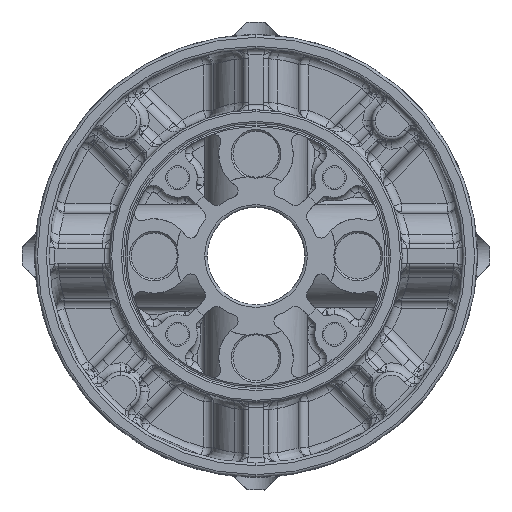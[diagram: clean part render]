
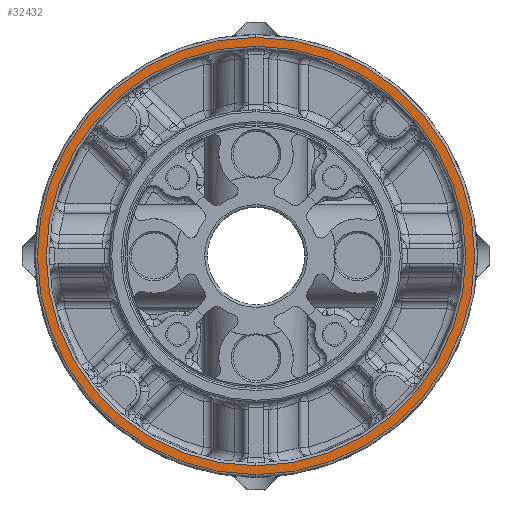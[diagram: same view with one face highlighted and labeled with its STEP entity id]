
A CAD part, left-side view. The second image highlights one B-rep face of the part: STEP entity #32432.
In plain terms, the highlighted planar face has unit normal (-1, 0, 0).
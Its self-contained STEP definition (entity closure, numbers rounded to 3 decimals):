
#958 = DIRECTION ( 'NONE',  ( -1., 0., 0. ) ) ;
#1538 = EDGE_LOOP ( 'NONE', ( #18575, #45110 ) ) ;
#1808 = CARTESIAN_POINT ( 'NONE',  ( -80., 0., 123.5 ) ) ;
#3169 = DIRECTION ( 'NONE',  ( 1., 0., 0. ) ) ;
#3421 = EDGE_CURVE ( 'NONE', #42270, #24211, #42255, .T. ) ;
#7253 = VERTEX_POINT ( 'NONE', #41492 ) ;
#9593 = CARTESIAN_POINT ( 'NONE',  ( -80., 0., 0. ) ) ;
#10741 = AXIS2_PLACEMENT_3D ( 'NONE', #38489, #12252, #24374 ) ;
#11239 = CARTESIAN_POINT ( 'NONE',  ( -80., 0., 0. ) ) ;
#11595 = FACE_OUTER_BOUND ( 'NONE', #24073, .T. ) ;
#12213 = EDGE_CURVE ( 'NONE', #49433, #7253, #15691, .T. ) ;
#12252 = DIRECTION ( 'NONE',  ( -1., 0., 0. ) ) ;
#14488 = DIRECTION ( 'NONE',  ( 0., 0., 1. ) ) ;
#14785 = AXIS2_PLACEMENT_3D ( 'NONE', #11239, #3169, #32598 ) ;
#15691 = CIRCLE ( 'NONE', #14785, 118.5 ) ;
#18064 = CIRCLE ( 'NONE', #10741, 123.5 ) ;
#18575 = ORIENTED_EDGE ( 'NONE', *, *, #12213, .T. ) ;
#20801 = CARTESIAN_POINT ( 'NONE',  ( -80., 58.336, -58.336 ) ) ;
#22739 = CIRCLE ( 'NONE', #32884, 118.5 ) ;
#23972 = AXIS2_PLACEMENT_3D ( 'NONE', #20801, #46763, #29737 ) ;
#24073 = EDGE_LOOP ( 'NONE', ( #45776, #34939 ) ) ;
#24211 = VERTEX_POINT ( 'NONE', #1808 ) ;
#24374 = DIRECTION ( 'NONE',  ( 0., 0., 1. ) ) ;
#28307 = DIRECTION ( 'NONE',  ( 0., 0., 1. ) ) ;
#29366 = EDGE_CURVE ( 'NONE', #7253, #49433, #22739, .T. ) ;
#29737 = DIRECTION ( 'NONE',  ( 0., 0., 1. ) ) ;
#32432 = ADVANCED_FACE ( 'NONE', ( #51346, #11595 ), #56239, .T. ) ;
#32598 = DIRECTION ( 'NONE',  ( 0., 0., 1. ) ) ;
#32884 = AXIS2_PLACEMENT_3D ( 'NONE', #50481, #41553, #28307 ) ;
#34939 = ORIENTED_EDGE ( 'NONE', *, *, #3421, .T. ) ;
#38489 = CARTESIAN_POINT ( 'NONE',  ( -80., 0., 0. ) ) ;
#41492 = CARTESIAN_POINT ( 'NONE',  ( -80., 0., -118.5 ) ) ;
#41553 = DIRECTION ( 'NONE',  ( 1., 0., 0. ) ) ;
#42255 = CIRCLE ( 'NONE', #49628, 123.5 ) ;
#42270 = VERTEX_POINT ( 'NONE', #52279 ) ;
#45110 = ORIENTED_EDGE ( 'NONE', *, *, #29366, .T. ) ;
#45776 = ORIENTED_EDGE ( 'NONE', *, *, #45959, .T. ) ;
#45959 = EDGE_CURVE ( 'NONE', #24211, #42270, #18064, .T. ) ;
#46763 = DIRECTION ( 'NONE',  ( -1., 0., 0. ) ) ;
#49433 = VERTEX_POINT ( 'NONE', #52686 ) ;
#49628 = AXIS2_PLACEMENT_3D ( 'NONE', #9593, #958, #14488 ) ;
#50481 = CARTESIAN_POINT ( 'NONE',  ( -80., 0., 0. ) ) ;
#51346 = FACE_BOUND ( 'NONE', #1538, .T. ) ;
#52279 = CARTESIAN_POINT ( 'NONE',  ( -80., 0., -123.5 ) ) ;
#52686 = CARTESIAN_POINT ( 'NONE',  ( -80., 0., 118.5 ) ) ;
#56239 = PLANE ( 'NONE',  #23972 ) ;
